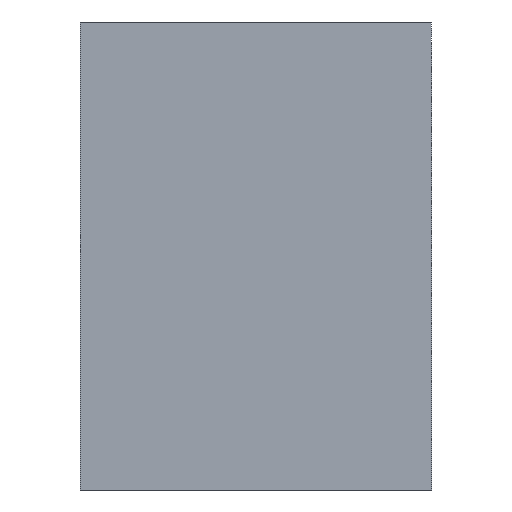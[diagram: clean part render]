
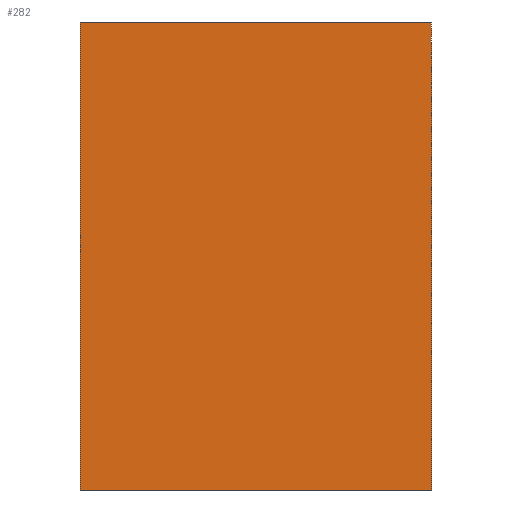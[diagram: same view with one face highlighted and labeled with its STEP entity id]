
A CAD part, left-side view. The second image highlights one B-rep face of the part: STEP entity #282.
In plain terms, the highlighted planar face has unit normal (-1, 0, 0).
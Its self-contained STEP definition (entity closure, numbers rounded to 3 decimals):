
#124=PLANE('',#1052);
#179=LINE('',#1566,#228);
#189=LINE('',#1587,#238);
#196=LINE('',#1601,#245);
#198=LINE('',#1604,#247);
#228=VECTOR('',#1283,1.);
#238=VECTOR('',#1297,1.);
#245=VECTOR('',#1308,1.);
#247=VECTOR('',#1312,1.);
#282=ADVANCED_FACE('',(#354),#124,.F.);
#354=FACE_OUTER_BOUND('',#409,.T.);
#409=EDGE_LOOP('',(#577,#578,#579,#580));
#577=ORIENTED_EDGE('',*,*,#847,.F.);
#578=ORIENTED_EDGE('',*,*,#858,.F.);
#579=ORIENTED_EDGE('',*,*,#866,.F.);
#580=ORIENTED_EDGE('',*,*,#868,.F.);
#746=VERTEX_POINT('',#1565);
#747=VERTEX_POINT('',#1567);
#755=VERTEX_POINT('',#1586);
#760=VERTEX_POINT('',#1600);
#847=EDGE_CURVE('',#746,#747,#179,.T.);
#858=EDGE_CURVE('',#755,#746,#189,.T.);
#866=EDGE_CURVE('',#760,#755,#196,.T.);
#868=EDGE_CURVE('',#747,#760,#198,.T.);
#1052=AXIS2_PLACEMENT_3D('',#1606,#1315,#1316);
#1283=DIRECTION('',(0.,-1.,0.));
#1297=DIRECTION('',(0.,0.,1.));
#1308=DIRECTION('',(0.,1.,0.));
#1312=DIRECTION('',(0.,0.,-1.));
#1315=DIRECTION('',(1.,0.,0.));
#1316=DIRECTION('',(0.,0.,1.));
#1565=CARTESIAN_POINT('',(-60.,15.,20.));
#1566=CARTESIAN_POINT('',(-60.,-15.,20.));
#1567=CARTESIAN_POINT('',(-60.,-15.,20.));
#1586=CARTESIAN_POINT('',(-60.,15.,-20.));
#1587=CARTESIAN_POINT('',(-60.,15.,-20.));
#1600=CARTESIAN_POINT('',(-60.,-15.,-20.));
#1601=CARTESIAN_POINT('',(-60.,-15.,-20.));
#1604=CARTESIAN_POINT('',(-60.,-15.,-20.));
#1606=CARTESIAN_POINT('',(-60.,0.,0.));
